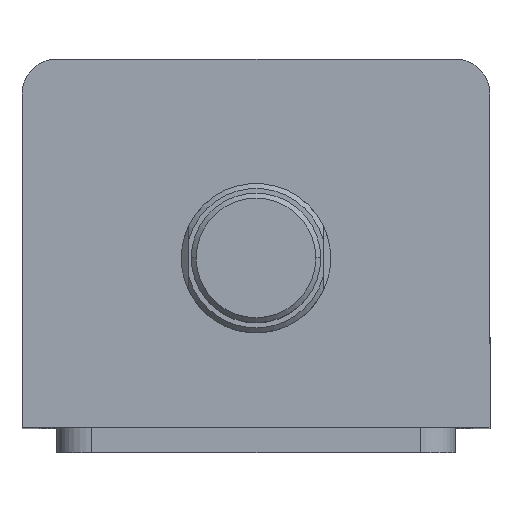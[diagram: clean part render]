
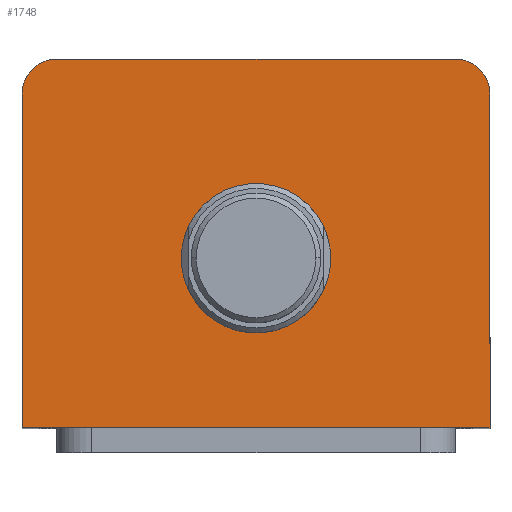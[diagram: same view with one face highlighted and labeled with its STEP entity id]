
A CAD part, top view. The second image highlights one B-rep face of the part: STEP entity #1748.
In plain terms, the highlighted planar face has unit normal (0, 0, 1).
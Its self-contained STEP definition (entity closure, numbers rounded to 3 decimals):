
#152 = FACE_BOUND ( 'NONE', #791, .T. ) ;
#158 = FACE_OUTER_BOUND ( 'NONE', #787, .T. ) ;
#252 = CIRCLE ( 'NONE', #1903, 15. ) ;
#340 = LINE ( 'NONE', #2717, #345 ) ;
#345 = VECTOR ( 'NONE', #2704, 1000. ) ;
#377 = LINE ( 'NONE', #2663, #2843 ) ;
#547 = CARTESIAN_POINT ( 'NONE',  ( -47., 37., 110. ) ) ;
#573 = DIRECTION ( 'NONE',  ( 0., -1., 0. ) ) ;
#575 = DIRECTION ( 'NONE',  ( 0., 0., 1. ) ) ;
#576 = CARTESIAN_POINT ( 'NONE',  ( -40., 30., 110. ) ) ;
#577 = DIRECTION ( 'NONE',  ( 1., 0., 0. ) ) ;
#578 = CARTESIAN_POINT ( 'NONE',  ( 0., -3., 110. ) ) ;
#618 = DIRECTION ( 'NONE',  ( 1., 0., 0. ) ) ;
#638 = DIRECTION ( 'NONE',  ( 0., 0., 1. ) ) ;
#787 = EDGE_LOOP ( 'NONE', ( #2067, #2066, #2065, #2064, #2063, #2062 ) ) ;
#791 = EDGE_LOOP ( 'NONE', ( #2069, #2068 ) ) ;
#819 = AXIS2_PLACEMENT_3D ( 'NONE', #578, #575, #577 ) ;
#825 = AXIS2_PLACEMENT_3D ( 'NONE', #576, #638, #618 ) ;
#833 = AXIS2_PLACEMENT_3D ( 'NONE', #2530, #2529, #2528 ) ;
#935 = CARTESIAN_POINT ( 'NONE',  ( 15., -3., 110. ) ) ;
#951 = DIRECTION ( 'NONE',  ( 1., 0., 0. ) ) ;
#952 = DIRECTION ( 'NONE',  ( 0., 0., 1. ) ) ;
#954 = CARTESIAN_POINT ( 'NONE',  ( 0., -3., 110. ) ) ;
#966 = CARTESIAN_POINT ( 'NONE',  ( -40., 37., 110. ) ) ;
#972 = CARTESIAN_POINT ( 'NONE',  ( -47., -37., 110. ) ) ;
#1044 = CARTESIAN_POINT ( 'NONE',  ( 47., 30., 110. ) ) ;
#1090 = CARTESIAN_POINT ( 'NONE',  ( -15., -3., 110. ) ) ;
#1140 = CARTESIAN_POINT ( 'NONE',  ( 47., -37., 110. ) ) ;
#1228 = DIRECTION ( 'NONE',  ( 1., 0., 0. ) ) ;
#1229 = DIRECTION ( 'NONE',  ( 0., 0., 1. ) ) ;
#1231 = PLANE ( 'NONE',  #1955 ) ;
#1232 = CARTESIAN_POINT ( 'NONE',  ( -47., 30., 110. ) ) ;
#1236 = CARTESIAN_POINT ( 'NONE',  ( 0., 0., 110. ) ) ;
#1245 = CARTESIAN_POINT ( 'NONE',  ( 40., 37., 110. ) ) ;
#1307 = VERTEX_POINT ( 'NONE', #1245 ) ;
#1313 = VERTEX_POINT ( 'NONE', #1232 ) ;
#1325 = VERTEX_POINT ( 'NONE', #1140 ) ;
#1335 = VERTEX_POINT ( 'NONE', #1090 ) ;
#1363 = VERTEX_POINT ( 'NONE', #1044 ) ;
#1387 = VERTEX_POINT ( 'NONE', #972 ) ;
#1391 = VERTEX_POINT ( 'NONE', #966 ) ;
#1403 = VERTEX_POINT ( 'NONE', #935 ) ;
#1748 = ADVANCED_FACE ( 'NONE', ( #152, #158 ), #1231, .T. ) ;
#1903 = AXIS2_PLACEMENT_3D ( 'NONE', #954, #952, #951 ) ;
#1955 = AXIS2_PLACEMENT_3D ( 'NONE', #1236, #1229, #1228 ) ;
#1986 = EDGE_CURVE ( 'NONE', #1335, #1403, #252, .T. ) ;
#2062 = ORIENTED_EDGE ( 'NONE', *, *, #2796, .T. ) ;
#2063 = ORIENTED_EDGE ( 'NONE', *, *, #2790, .T. ) ;
#2064 = ORIENTED_EDGE ( 'NONE', *, *, #2495, .T. ) ;
#2065 = ORIENTED_EDGE ( 'NONE', *, *, #2815, .T. ) ;
#2066 = ORIENTED_EDGE ( 'NONE', *, *, #2806, .T. ) ;
#2067 = ORIENTED_EDGE ( 'NONE', *, *, #2517, .T. ) ;
#2068 = ORIENTED_EDGE ( 'NONE', *, *, #1986, .F. ) ;
#2069 = ORIENTED_EDGE ( 'NONE', *, *, #2828, .F. ) ;
#2495 = EDGE_CURVE ( 'NONE', #1387, #1325, #340, .T. ) ;
#2517 = EDGE_CURVE ( 'NONE', #1307, #1391, #377, .T. ) ;
#2528 = DIRECTION ( 'NONE',  ( 1., 0., 0. ) ) ;
#2529 = DIRECTION ( 'NONE',  ( 0., 0., 1. ) ) ;
#2530 = CARTESIAN_POINT ( 'NONE',  ( 40., 30., 110. ) ) ;
#2554 = DIRECTION ( 'NONE',  ( 0., 1., 0. ) ) ;
#2564 = CARTESIAN_POINT ( 'NONE',  ( 47., 37., 110. ) ) ;
#2647 = DIRECTION ( 'NONE',  ( -1., 0., 0. ) ) ;
#2663 = CARTESIAN_POINT ( 'NONE',  ( -47., 37., 110. ) ) ;
#2704 = DIRECTION ( 'NONE',  ( 1., 0., 0. ) ) ;
#2717 = CARTESIAN_POINT ( 'NONE',  ( -47., -37., 110. ) ) ;
#2790 = EDGE_CURVE ( 'NONE', #1325, #1363, #2886, .T. ) ;
#2796 = EDGE_CURVE ( 'NONE', #1363, #1307, #2902, .T. ) ;
#2806 = EDGE_CURVE ( 'NONE', #1391, #1313, #2911, .T. ) ;
#2815 = EDGE_CURVE ( 'NONE', #1313, #1387, #2927, .T. ) ;
#2828 = EDGE_CURVE ( 'NONE', #1403, #1335, #2953, .T. ) ;
#2843 = VECTOR ( 'NONE', #2647, 1000. ) ;
#2886 = LINE ( 'NONE', #2564, #2898 ) ;
#2898 = VECTOR ( 'NONE', #2554, 1000. ) ;
#2902 = CIRCLE ( 'NONE', #833, 7. ) ;
#2911 = CIRCLE ( 'NONE', #825, 7. ) ;
#2927 = LINE ( 'NONE', #547, #2930 ) ;
#2930 = VECTOR ( 'NONE', #573, 1000. ) ;
#2953 = CIRCLE ( 'NONE', #819, 15. ) ;
